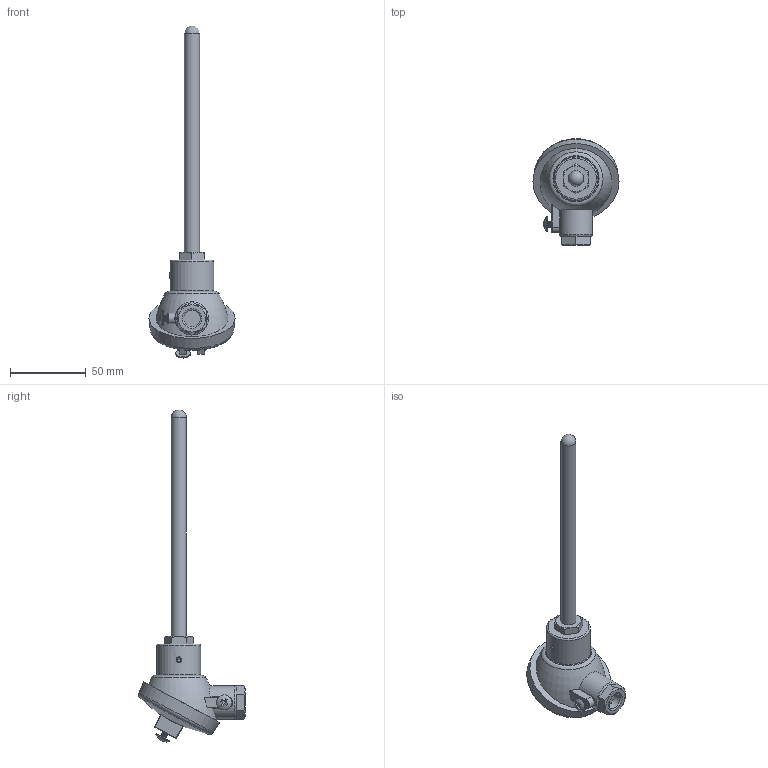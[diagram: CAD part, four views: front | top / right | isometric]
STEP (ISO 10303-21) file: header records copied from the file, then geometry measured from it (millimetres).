
FILE_DESCRIPTION (( 'STEP AP203' ), '1' );
FILE_NAME ('YIT30_7(0).STEP', '2024-07-01T08:19:09', ( '' ), ( '' ), 'SwSTEP 2.0', 'SolidWorks 2021', '' );
FILE_SCHEMA (( 'CONFIG_CONTROL_DESIGN' ));
Length unit declared in the file: millimetre
Products named in the file (1): YIT30_7(0)
Bounding box: 57 x 70.64 x 219.86 mm (x, y, z)
Volume: 89666.7 mm3; surface area: 18726.8 mm2
Topology: 1 solids, 2 shells, 186 faces, 446 edges, 275 vertices
Faces by surface type: plane 88, cylinder 47, bspline 19, cone 12, torus 11, sphere 9
Full cylindrical faces by diameter (mm): 3.5 x3, 3.6 x1, 3.8 x10, 10 x3, 11 x1, 16 x1, 16.5 x1, 22 x1, 29 x1
Entity records: 7863 total; most frequent: CARTESIAN_POINT 4280, ORIENTED_EDGE 714, DIRECTION 677, EDGE_CURVE 357, AXIS2_PLACEMENT_3D 263, VERTEX_POINT 230, EDGE_LOOP 217, FACE_OUTER_BOUND 195
